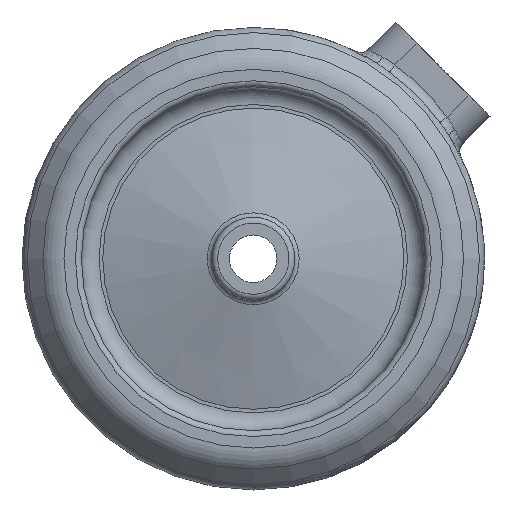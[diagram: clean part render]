
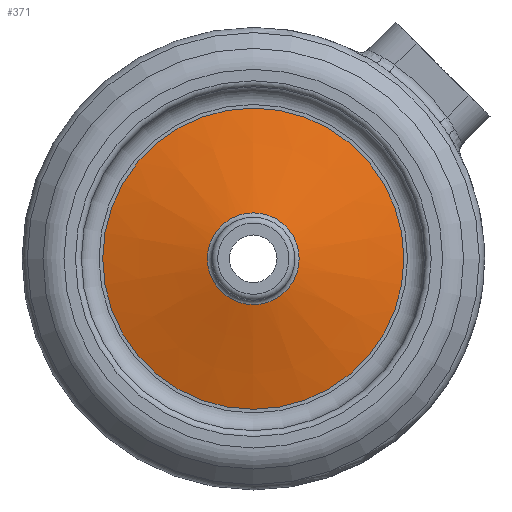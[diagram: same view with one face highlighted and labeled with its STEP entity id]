
A CAD part, front view. The second image highlights one B-rep face of the part: STEP entity #371.
In plain terms, the highlighted conical face has half-angle 75 degrees and reference radius 25.395 mm.
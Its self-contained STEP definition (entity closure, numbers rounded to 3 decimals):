
#5 = EDGE_LOOP ( 'NONE', ( #1728 ) ) ;
#320 = CARTESIAN_POINT ( 'NONE',  ( -55.614, 499.77, -12.551 ) ) ;
#371 = ADVANCED_FACE ( 'NONE', ( #2501, #1904 ), #2479, .T. ) ;
#473 = DIRECTION ( 'NONE',  ( 0., 0., 1. ) ) ;
#669 = VERTEX_POINT ( 'NONE', #2979 ) ;
#945 = CIRCLE ( 'NONE', #1959, 25.395 ) ;
#1050 = CARTESIAN_POINT ( 'NONE',  ( -55.614, 499.77, -4.81 ) ) ;
#1330 = EDGE_LOOP ( 'NONE', ( #1711 ) ) ;
#1412 = DIRECTION ( 'NONE',  ( 0., 1., 0. ) ) ;
#1429 = AXIS2_PLACEMENT_3D ( 'NONE', #320, #1808, #1487 ) ;
#1487 = DIRECTION ( 'NONE',  ( 0., 0., 1. ) ) ;
#1625 = DIRECTION ( 'NONE',  ( 0., 0., 1. ) ) ;
#1711 = ORIENTED_EDGE ( 'NONE', *, *, #2011, .F. ) ;
#1728 = ORIENTED_EDGE ( 'NONE', *, *, #2569, .T. ) ;
#1808 = DIRECTION ( 'NONE',  ( 0., 1., 0. ) ) ;
#1886 = DIRECTION ( 'NONE',  ( 0., 1., 0. ) ) ;
#1904 = FACE_OUTER_BOUND ( 'NONE', #1330, .T. ) ;
#1959 = AXIS2_PLACEMENT_3D ( 'NONE', #3126, #1412, #473 ) ;
#2011 = EDGE_CURVE ( 'NONE', #669, #669, #945, .T. ) ;
#2129 = CARTESIAN_POINT ( 'NONE',  ( -55.614, 504.5, -12.551 ) ) ;
#2479 = CONICAL_SURFACE ( 'NONE', #3274, 25.395, 1.309 ) ;
#2501 = FACE_BOUND ( 'NONE', #5, .T. ) ;
#2569 = EDGE_CURVE ( 'NONE', #3404, #3404, #2699, .T. ) ;
#2699 = CIRCLE ( 'NONE', #1429, 7.741 ) ;
#2979 = CARTESIAN_POINT ( 'NONE',  ( -55.614, 504.5, 12.844 ) ) ;
#3126 = CARTESIAN_POINT ( 'NONE',  ( -55.614, 504.5, -12.551 ) ) ;
#3274 = AXIS2_PLACEMENT_3D ( 'NONE', #2129, #1886, #1625 ) ;
#3404 = VERTEX_POINT ( 'NONE', #1050 ) ;
